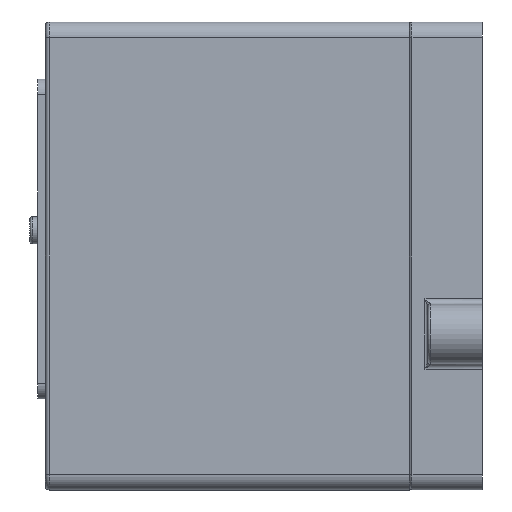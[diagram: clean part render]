
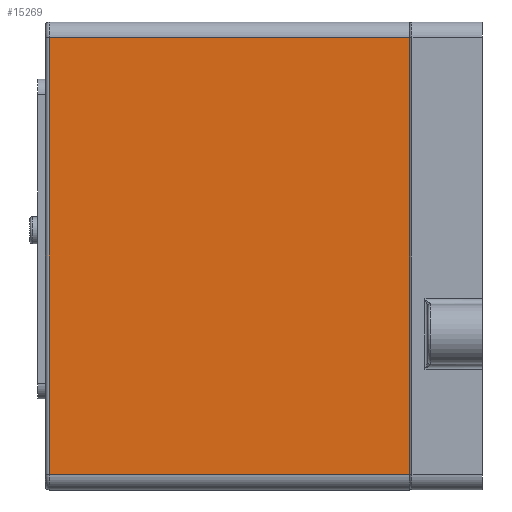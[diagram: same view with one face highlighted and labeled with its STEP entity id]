
A CAD part, left-side view. The second image highlights one B-rep face of the part: STEP entity #15269.
In plain terms, the highlighted planar face has unit normal (-1, 0, 0).
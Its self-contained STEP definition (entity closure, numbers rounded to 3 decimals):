
#3010=PLANE('',#40735);
#4773=FACE_OUTER_BOUND('',#18115,.T.);
#8839=LINE('',#67015,#13188);
#8840=LINE('',#67018,#13189);
#8841=LINE('',#67020,#13190);
#8842=LINE('',#67022,#13191);
#13188=VECTOR('',#49158,1.);
#13189=VECTOR('',#49159,1.);
#13190=VECTOR('',#49160,1.);
#13191=VECTOR('',#49161,1.);
#15269=ADVANCED_FACE('',(#4773),#3010,.F.);
#18115=EDGE_LOOP('',(#27169,#27170,#27171,#27172));
#27169=ORIENTED_EDGE('',*,*,#37293,.T.);
#27170=ORIENTED_EDGE('',*,*,#37294,.T.);
#27171=ORIENTED_EDGE('',*,*,#37295,.T.);
#27172=ORIENTED_EDGE('',*,*,#37296,.T.);
#32370=VERTEX_POINT('',#67016);
#32371=VERTEX_POINT('',#67017);
#32372=VERTEX_POINT('',#67019);
#32373=VERTEX_POINT('',#67021);
#37293=EDGE_CURVE('',#32370,#32371,#8839,.T.);
#37294=EDGE_CURVE('',#32371,#32372,#8840,.T.);
#37295=EDGE_CURVE('',#32372,#32373,#8841,.T.);
#37296=EDGE_CURVE('',#32373,#32370,#8842,.T.);
#40735=AXIS2_PLACEMENT_3D('',#67023,#49162,#49163);
#49158=DIRECTION('',(0.,1.,0.));
#49159=DIRECTION('',(0.,0.,-1.));
#49160=DIRECTION('',(0.,-1.,0.));
#49161=DIRECTION('',(0.,0.,1.));
#49162=DIRECTION('',(1.,0.,0.));
#49163=DIRECTION('',(0.,0.,-1.));
#67015=CARTESIAN_POINT('',(-44.5,70.,42.));
#67016=CARTESIAN_POINT('',(-44.5,0.,42.));
#67017=CARTESIAN_POINT('',(-44.5,69.3,42.));
#67018=CARTESIAN_POINT('',(-44.5,69.3,-42.));
#67019=CARTESIAN_POINT('',(-44.5,69.3,-42.));
#67020=CARTESIAN_POINT('',(-44.5,70.,-42.));
#67021=CARTESIAN_POINT('',(-44.5,0.,-42.));
#67022=CARTESIAN_POINT('',(-44.5,0.,-45.));
#67023=CARTESIAN_POINT('',(-44.5,70.,-45.));
